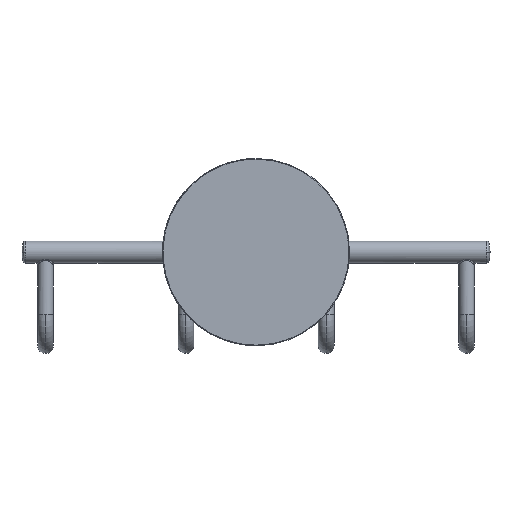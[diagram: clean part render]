
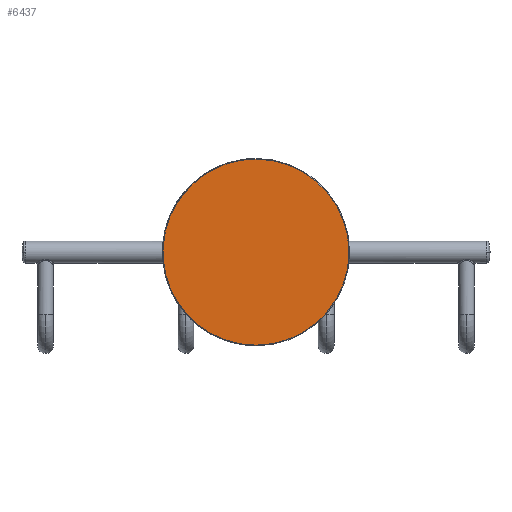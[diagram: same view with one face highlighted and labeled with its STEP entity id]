
A CAD part, front view. The second image highlights one B-rep face of the part: STEP entity #6437.
In plain terms, the highlighted planar face has unit normal (0, -1, 0).
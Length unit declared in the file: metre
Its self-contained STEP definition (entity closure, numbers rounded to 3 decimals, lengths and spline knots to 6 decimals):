
#20=EDGE_CURVE('',#21,#23,#25,.F.);
#21=VERTEX_POINT('',#22);
#22=CARTESIAN_POINT('',(0.0,-0.014,-0.0298));
#23=VERTEX_POINT('',#24);
#24=CARTESIAN_POINT('',(0.0,-0.014,0.0298));
#25=CIRCLE('',#26,0.0298);
#26=AXIS2_PLACEMENT_3D('',#27,#28,#29);
#27=CARTESIAN_POINT('',(0.0,-0.014,0.0));
#28=DIRECTION('',(0.0,1.0,0.0));
#29=DIRECTION('',(0.0,0.0,1.0));
#6437=ADVANCED_FACE('',(#6443),#6438,.F.);
#6438=PLANE('',#6439);
#6439=AXIS2_PLACEMENT_3D('',#6440,#6441,#6442);
#6440=CARTESIAN_POINT('',(0.0,-0.014,0.03));
#6441=DIRECTION('',(0.0,1.0,0.0));
#6442=DIRECTION('',(0.0,0.0,1.0));
#6443=FACE_OUTER_BOUND('',#6444,.T.);
#6444=EDGE_LOOP('',(#6445,#6453));
#6445=ORIENTED_EDGE('',*,*,#6447,.T.);
#6446=CARTESIAN_POINT('',(0.0,-0.014,-0.0298));
#6447=EDGE_CURVE('',#23,#21,#6448,.F.);
#6448=(B_SPLINE_CURVE(3,(#6446,#6449,#6450,#6451),.UNSPECIFIED.,.F.,.U.)B_SPLINE_CURVE_WITH_KNOTS(
  (4,4),(0.0,1.0),.UNSPECIFIED.)BOUNDED_CURVE()CURVE()GEOMETRIC_REPRESENTATION_ITEM(
  )RATIONAL_B_SPLINE_CURVE((1.0,0.333,0.333,1.0)
  )REPRESENTATION_ITEM(''));
#6449=CARTESIAN_POINT('',(-0.0596,-0.014,-0.0298));
#6450=CARTESIAN_POINT('',(-0.0596,-0.014,0.0298));
#6451=CARTESIAN_POINT('',(0.0,-0.014,0.0298));
#6453=ORIENTED_EDGE('',*,*,#20,.T.);
